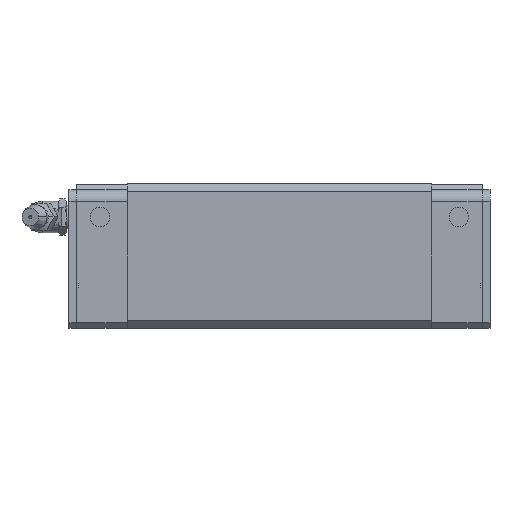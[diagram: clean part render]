
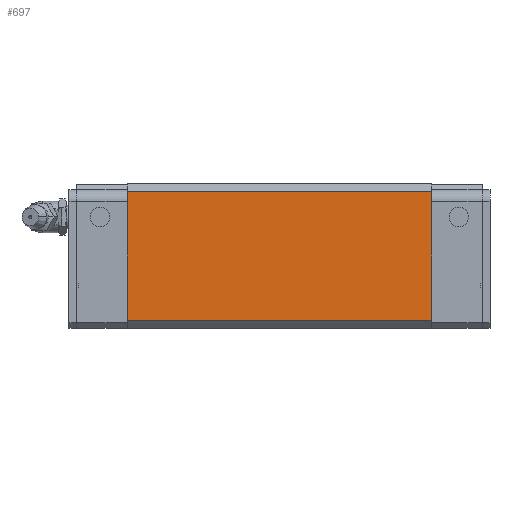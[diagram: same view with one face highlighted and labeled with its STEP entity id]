
A CAD part, front view. The second image highlights one B-rep face of the part: STEP entity #697.
In plain terms, the highlighted planar face has unit normal (0, -1, 0).
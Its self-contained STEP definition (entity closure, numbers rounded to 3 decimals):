
#636=CARTESIAN_POINT('POINT40',(93.,-35.,
   2.));
#637=VERTEX_POINT('VERTEX40',#636);
#644=CARTESIAN_POINT('POINT41',(15.,-35.,
   2.));
#645=VERTEX_POINT('VERTEX41',#644);
#646=CARTESIAN_POINT('POS65',(15.,-35.,
   2.));
#647=DIRECTION('DIR98',(1.,0.,0.));
#648=VECTOR('VEC32',#647,1.);
#649=LINE('STRAIGHT32',#646,#648);
#650=EDGE_CURVE('EDGE64',#645,#637,#649,.T.);
#667=CARTESIAN_POINT('POINT42',(93.,-35.,
   35.));
#668=VERTEX_POINT('VERTEX42',#667);
#669=CARTESIAN_POINT('POS68',(93.,-35.,
   2.));
#670=DIRECTION('DIR102',(0.,0.,1.));
#671=VECTOR('VEC34',#670,1.);
#672=LINE('STRAIGHT34',#669,#671);
#673=EDGE_CURVE('EDGE66',#637,#668,#672,.T.);
#674=ORIENTED_EDGE('COEDGE119',*,*,#673,.T.);
#675=CARTESIAN_POINT('POINT43',(15.,-35.,
   35.));
#676=VERTEX_POINT('VERTEX43',#675);
#677=CARTESIAN_POINT('POS69',(15.,-35.,
   35.));
#678=DIRECTION('DIR103',(1.,0.,0.));
#679=VECTOR('VEC35',#678,1.);
#680=LINE('STRAIGHT35',#677,#679);
#681=EDGE_CURVE('EDGE67',#676,#668,#680,.T.);
#682=ORIENTED_EDGE('COEDGE120',*,*,#681,.F.);
#683=CARTESIAN_POINT('POS70',(15.,-35.,
   2.));
#684=DIRECTION('DIR104',(0.,0.,1.));
#685=VECTOR('VEC36',#684,1.);
#686=LINE('STRAIGHT36',#683,#685);
#687=EDGE_CURVE('EDGE68',#645,#676,#686,.T.);
#688=ORIENTED_EDGE('COEDGE121',*,*,#687,.F.);
#689=ORIENTED_EDGE('COEDGE122',*,*,#650,.T.);
#690=EDGE_LOOP('NONE',(#674,#682,#688,#689));
#691=FACE_BOUND('LOOP1',#690,.T.);
#692=CARTESIAN_POINT('POS71',(15.,-35.,
   2.));
#693=DIRECTION('DIR105',(0.,-1.,0.));
#694=DIRECTION('DIR106',(1.,0.,0.));
#695=AXIS2_PLACEMENT_3D('AXIS35',#692,#693,#694);
#696=PLANE('PLANE6',#695);
#697=ADVANCED_FACE('FACE32',(#691),#696,.T.);
